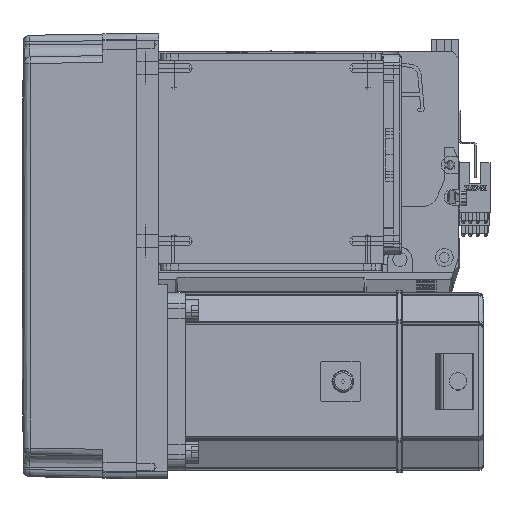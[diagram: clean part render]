
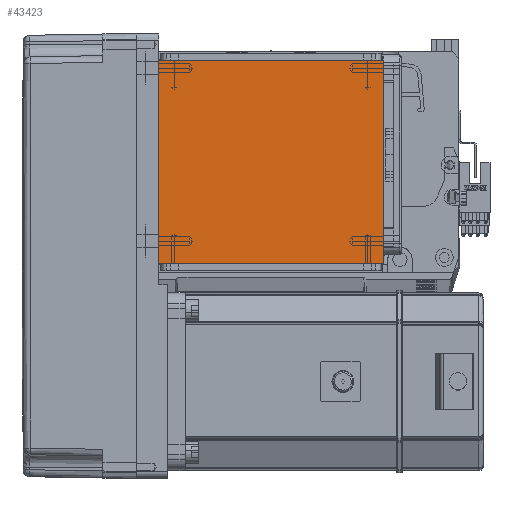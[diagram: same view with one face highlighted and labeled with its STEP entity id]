
A CAD part, top view. The second image highlights one B-rep face of the part: STEP entity #43423.
In plain terms, the highlighted planar face has unit normal (0, 0, 1).
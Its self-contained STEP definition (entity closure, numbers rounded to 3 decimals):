
#4972 = AXIS2_PLACEMENT_3D ( 'NONE', #35361, #25280, #51700 ) ;
#5129 = CARTESIAN_POINT ( 'NONE',  ( 50.5, 122., 115. ) ) ;
#13092 = CARTESIAN_POINT ( 'NONE',  ( 50.5, 20., 115. ) ) ;
#13114 = VECTOR ( 'NONE', #39665, 1000. ) ;
#14261 = LINE ( 'NONE', #27006, #66873 ) ;
#14980 = FACE_OUTER_BOUND ( 'NONE', #40640, .T. ) ;
#15548 = VECTOR ( 'NONE', #62077, 1000. ) ;
#20070 = ORIENTED_EDGE ( 'NONE', *, *, #49749, .T. ) ;
#25234 = CARTESIAN_POINT ( 'NONE',  ( 50.5, 111.5, 115. ) ) ;
#25280 = DIRECTION ( 'NONE',  ( 0., 0., 1. ) ) ;
#27006 = CARTESIAN_POINT ( 'NONE',  ( -70.004, 111.5, 115. ) ) ;
#28297 = CARTESIAN_POINT ( 'NONE',  ( -50.5, 20., 115. ) ) ;
#28303 = VERTEX_POINT ( 'NONE', #52110 ) ;
#28676 = LINE ( 'NONE', #44949, #13114 ) ;
#34931 = ORIENTED_EDGE ( 'NONE', *, *, #53258, .F. ) ;
#35361 = CARTESIAN_POINT ( 'NONE',  ( 0., 0., 115. ) ) ;
#37820 = ORIENTED_EDGE ( 'NONE', *, *, #42732, .F. ) ;
#39665 = DIRECTION ( 'NONE',  ( 0., -1., 0. ) ) ;
#40640 = EDGE_LOOP ( 'NONE', ( #37820, #55592, #34931, #20070 ) ) ;
#40908 = CARTESIAN_POINT ( 'NONE',  ( -70.004, 20., 115. ) ) ;
#41894 = DIRECTION ( 'NONE',  ( 0., 1., 0. ) ) ;
#42592 = LINE ( 'NONE', #40908, #15548 ) ;
#42732 = EDGE_CURVE ( 'NONE', #28303, #61878, #14261, .T. ) ;
#43088 = LINE ( 'NONE', #5129, #46395 ) ;
#43423 = ADVANCED_FACE ( 'NONE', ( #14980 ), #51044, .T. ) ;
#44949 = CARTESIAN_POINT ( 'NONE',  ( -50.5, 122., 115. ) ) ;
#45879 = EDGE_CURVE ( 'NONE', #28303, #53033, #28676, .T. ) ;
#46395 = VECTOR ( 'NONE', #41894, 1000. ) ;
#47258 = DIRECTION ( 'NONE',  ( 1., 0., 0. ) ) ;
#49749 = EDGE_CURVE ( 'NONE', #57257, #61878, #43088, .T. ) ;
#51044 = PLANE ( 'NONE',  #4972 ) ;
#51700 = DIRECTION ( 'NONE',  ( 1., 0., 0. ) ) ;
#52110 = CARTESIAN_POINT ( 'NONE',  ( -50.5, 111.5, 115. ) ) ;
#53033 = VERTEX_POINT ( 'NONE', #28297 ) ;
#53258 = EDGE_CURVE ( 'NONE', #57257, #53033, #42592, .T. ) ;
#55592 = ORIENTED_EDGE ( 'NONE', *, *, #45879, .T. ) ;
#57257 = VERTEX_POINT ( 'NONE', #13092 ) ;
#61878 = VERTEX_POINT ( 'NONE', #25234 ) ;
#62077 = DIRECTION ( 'NONE',  ( -1., 0., 0. ) ) ;
#66873 = VECTOR ( 'NONE', #47258, 1000. ) ;
